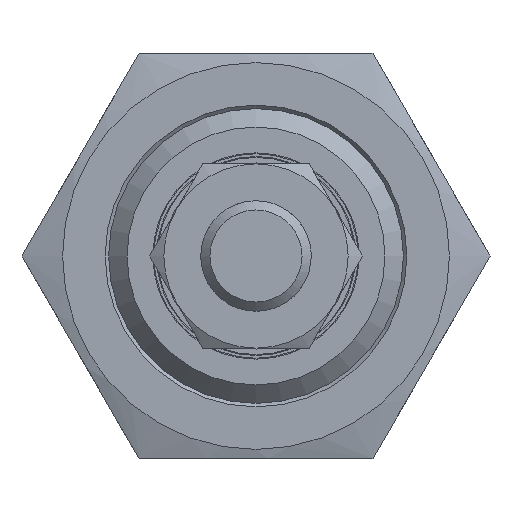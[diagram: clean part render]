
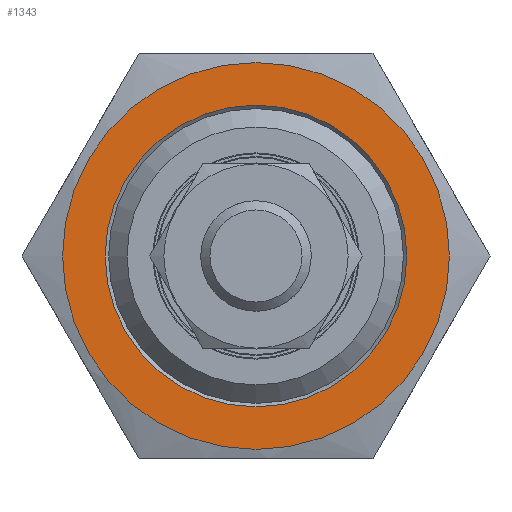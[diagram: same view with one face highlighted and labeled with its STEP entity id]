
A CAD part, front view. The second image highlights one B-rep face of the part: STEP entity #1343.
In plain terms, the highlighted planar face has unit normal (0, -1, 0) as drawn and (0, 0, 1) by its records, which use the part's own axes.
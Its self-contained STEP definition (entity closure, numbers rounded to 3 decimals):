
#234=PLANE('',#2244);
#503=ORIENTED_EDGE('',*,*,#677,.T.);
#504=ORIENTED_EDGE('',*,*,#678,.T.);
#677=EDGE_CURVE('',#799,#799,#889,.F.);
#678=EDGE_CURVE('',#800,#800,#890,.T.);
#799=VERTEX_POINT('',#3101);
#800=VERTEX_POINT('',#3103);
#889=CIRCLE('',#2245,8.188);
#890=CIRCLE('',#2246,10.5);
#1045=EDGE_LOOP('',(#503));
#1046=EDGE_LOOP('',(#504));
#1213=FACE_BOUND('',#1045,.T.);
#1214=FACE_BOUND('',#1046,.T.);
#1343=ADVANCED_FACE('',(#1213,#1214),#234,.T.);
#2244=AXIS2_PLACEMENT_3D('',#3099,#2647,#2648);
#2245=AXIS2_PLACEMENT_3D('',#3100,#2649,#2650);
#2246=AXIS2_PLACEMENT_3D('',#3102,#2651,#2652);
#2647=DIRECTION('',(0.,0.,1.));
#2648=DIRECTION('',(1.,0.,0.));
#2649=DIRECTION('',(0.,0.,1.));
#2650=DIRECTION('',(1.,0.,0.));
#2651=DIRECTION('',(0.,0.,1.));
#2652=DIRECTION('',(1.,0.,0.));
#3099=CARTESIAN_POINT('',(0.,0.,3.));
#3100=CARTESIAN_POINT('',(0.,0.,3.));
#3101=CARTESIAN_POINT('',(8.188,0.,3.));
#3102=CARTESIAN_POINT('',(0.,0.,3.));
#3103=CARTESIAN_POINT('',(10.5,0.,3.));
